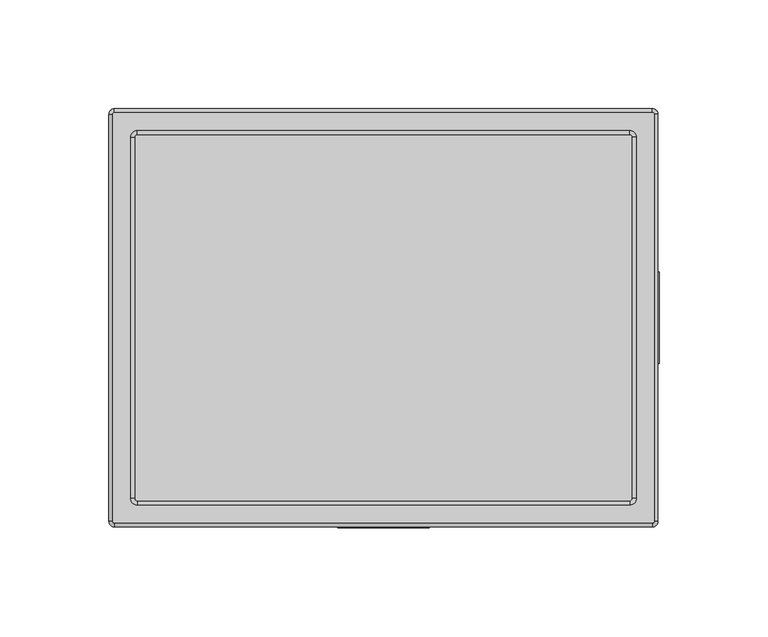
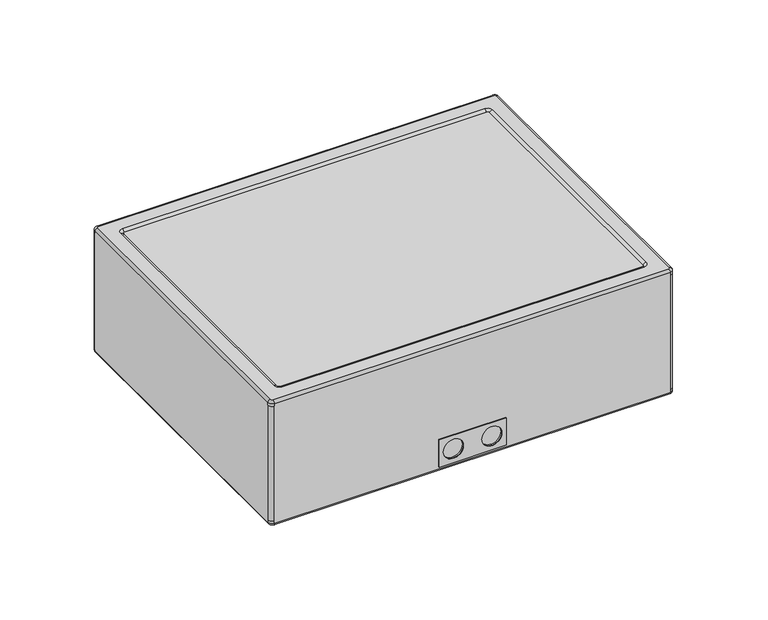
"""IFC4 building model written with IfcOpenShell, lengths in millimetres: proxy geometry, WA 06-165T Metal-EN54 STR : WA 06-165/T Metal-EN54 STR."""

from ifc_helpers import new_model, si_unit, point, frame, frame_2d, origin, place, context, project, spatial, polyline, circle_curve, ellipse_curve, trimmed, segment, composite_curve, outline, extrude, faceted_brep, source, transform, mapped, element, save
from ifc_brep_helpers import plane_surface, cylinder_surface, revolved_surface, advanced_brep


def communication_devices_0cf20ce7(model_context):
    return source(origin(), model_context, "Body", "SolidModel", [
        faceted_brep([(-94.9046082, 64.9046107, 68.8696979), (-108.9999975, 79.0, 74.0), (-108.9999975, -79.0, 74.0), (-94.9046082, -64.9046107, 68.8696979), (-115.9046082, 85.9046107, 79.0), (-115.9046082, 85.9046107, 66.8696979), (-115.9046082, -85.9046107, 66.8696979), (-115.9046082, -85.9046107, 79.0), (-113.9999975, 84.0, 74.0), (-113.9999975, 84.0, 79.0), (-113.9999975, -84.0, 79.0), (-113.9999975, -84.0, 74.0), (109.0000025, -79.0, 74.0), (94.9046132, -64.9046107, 68.8696979), (115.9046132, -85.9046107, 66.8696979), (115.9046132, -85.9046107, 79.0), (114.0000025, -84.0, 79.0), (114.0000025, -84.0, 74.0), (109.0000025, 79.0, 74.0), (94.9046132, 64.9046107, 68.8696979), (115.9046132, 85.9046107, 66.8696979), (115.9046132, 85.9046107, 79.0), (114.0000025, 84.0, 79.0), (114.0000025, 84.0, 74.0)], [[[0, 1, 2, 3]], [[4, 5, 6, 7]], [[8, 9, 10, 11]], [[3, 2, 12, 13]], [[7, 6, 14, 15]], [[11, 10, 16, 17]], [[13, 12, 18, 19]], [[15, 14, 20, 21]], [[17, 16, 22, 23]], [[8, 11, 17, 23], [2, 1, 18, 12]], [[1, 0, 19, 18]], [[0, 3, 13, 19]], [[6, 5, 20, 14]], [[5, 4, 21, 20]], [[4, 7, 15, 21], [10, 9, 22, 16]], [[9, 8, 23, 22]]]),
        extrude(outline(composite_curve([segment(polyline([(-112.9999975, 84.0), (113.0000025, 84.0)]), True, "CONTINUOUS"), segment(trimmed(circle_curve(frame_2d((113.0000025, 83.0)), 1.0), [point((113.0000025, 84.0))], [point((114.0000025, 83.0))], False, "CARTESIAN"), True, "CONTINUOUS"), segment(polyline([(114.0000025, 83.0), (114.0000025, -82.9728648)]), True, "CONTINUOUS"), segment(trimmed(circle_curve(frame_2d((112.9728673, -82.9728648)), 1.0271352), [point((114.0000025, -82.9728648))], [point((112.9728673, -84.0))], False, "CARTESIAN"), True, "CONTINUOUS"), segment(polyline([(112.9728673, -84.0), (-112.9999975, -84.0)]), True, "CONTINUOUS"), segment(trimmed(circle_curve(frame_2d((-112.9999975, -83.0)), 1.0), [point((-112.9999975, -84.0))], [point((-113.9999975, -83.0))], False, "CARTESIAN"), True, "CONTINUOUS"), segment(polyline([(-113.9999975, -83.0), (-113.9999975, 83.0)]), True, "CONTINUOUS"), segment(trimmed(circle_curve(frame_2d((-112.9999975, 83.0)), 1.0), [point((-113.9999975, 83.0))], [point((-112.9999975, 84.0))], False, "CARTESIAN"), True, "CONTINUOUS")], self_intersect=False)), frame((0.0, 0.0, 79.0), z_axis=(0.0, 0.0, 1.0), x_axis=(1.0, 0.0, 0.0)), (0.0, 0.0, 1.0), 2.0),
        advanced_brep(
        [(125.0, 5.75, 12.0), (125.0, 18.25, 12.0), (125.0, -5.75, 12.0), (125.0, -18.25, 12.0), (126.5, 5.75, 12.0), (126.5, 18.25, 12.0), (126.5, -5.75, 12.0), (126.5, -18.25, 12.0), (126.5, 21.0, 3.0), (126.5, 21.0, 21.0), (126.5, -21.0, 21.0), (126.5, -21.0, 3.0), (126.0039881, 21.0, 3.0), (126.0039881, 21.0, 21.0), (126.0039881, -21.0, 21.0), (126.0039881, -21.0, 3.0), (-112.9999975, -84.0, 80.0), (-113.9999975, -83.0, 80.0), (-115.9999975, -83.0, 82.0), (-112.9999975, -86.0, 82.0), (112.9728673, -86.0, 82.0), (112.9728673, -84.0, 80.0), (116.0000025, -82.9728648, 82.0), (114.0000025, -82.9728648, 80.0), (116.0000025, 83.0, 82.0), (114.0000025, 83.0, 80.0), (113.0000025, 86.0, 82.0), (113.0000025, 84.0, 80.0), (-112.9999975, 86.0, 82.0), (-112.9999975, 84.0, 80.0), (-115.9999975, 83.0, 82.0), (-113.9999975, 83.0, 80.0), (-112.9999975, -84.0, 79.0), (-113.9999975, -83.0, 79.0), (112.9728673, -84.0, 79.0), (114.0000025, -82.9728648, 79.0), (114.0000025, 83.0, 79.0), (113.0000025, 84.0, 79.0), (-112.9999975, 84.0, 79.0), (-113.9999975, 83.0, 79.0), (123.5039881, -93.5039906, 79.0), (-123.4552169, -93.5039906, 79.0), (-123.5039881, 93.4552194, 79.0), (123.4552169, 93.5039906, 79.0), (-123.4552169, -96.0039906, 80.5), (-126.0039881, -93.4552194, 80.5), (-126.0039881, -93.4552194, 79.0), (-123.4552169, -96.0039906, 79.0), (-123.4552169, -94.5039906, 82.0), (-124.5039881, -93.4552194, 82.0), (-123.4552169, -96.0039906, 3.0), (-123.4552169, -96.0039906, 1.5), (123.4552169, -96.0039906, 1.5), (123.4552169, -96.0039906, 3.0), (123.4552169, -96.0039906, 79.0), (123.4552169, -96.0039906, 80.5), (21.0, -96.0039906, 3.0), (-21.0, -96.0039906, 3.0), (-21.0, -96.0039906, 21.0), (21.0, -96.0039906, 21.0), (123.4552169, -94.5039906, 82.0), (126.0039881, -93.4552194, 79.0), (126.0039881, -93.4552194, 80.5), (124.5039881, -93.4552194, 82.0), (126.0039881, -93.4552194, 3.0), (126.0039881, -93.4552194, 1.5), (126.0039881, 93.4552194, 1.5), (126.0039881, 93.4552194, 3.0), (126.0039881, 93.4552194, 79.0), (126.0039881, 93.4552194, 80.5), (124.5039881, 93.4552194, 82.0), (123.4552169, 96.0039906, 79.0), (123.4552169, 96.0039906, 80.5), (123.4552169, 94.5039906, 82.0), (123.4552169, 96.0039906, 3.0), (123.4552169, 96.0039906, 1.5), (-123.4552169, 96.0039906, 1.5), (-123.4552169, 96.0039906, 3.0), (-123.4552169, 96.0039906, 79.0), (-123.4552169, 96.0039906, 80.5), (-123.4552169, 94.5039906, 82.0), (-126.0039881, 93.4552194, 79.0), (-126.0039881, 93.4552194, 80.5), (-124.5039881, 93.4552194, 82.0), (-126.0039881, 93.4552194, 3.0), (-126.0039881, 93.4552194, 1.5), (-126.0039881, -93.4552194, 1.5), (-126.0039881, -93.4552194, 3.0), (-124.5039881, -93.4552194, 0.0), (-123.4552169, -94.5039906, 0.0), (123.5039881, -93.5039906, 3.0), (-123.4552169, -93.5039906, 3.0), (123.4552169, -94.5039906, 0.0), (124.5039881, -93.4552194, 0.0), (123.5039881, 93.5039906, 3.0), (124.5039881, 93.4552194, 0.0), (123.4552169, 94.5039906, 0.0), (-123.5039881, 93.5039906, 3.0), (-123.4552169, 94.5039906, 0.0), (-124.5039881, 93.4552194, 0.0), (5.75, -95.0, 12.0), (18.25, -95.0, 12.0), (-5.75, -95.0, 12.0), (-18.25, -95.0, 12.0), (5.75, -96.0039906, 12.0), (18.25, -96.0039906, 12.0), (-5.75, -96.0039906, 12.0), (-18.25, -96.0039906, 12.0), (-21.0, -96.5, 3.0), (21.0, -96.5, 3.0), (21.0, -96.5, 21.0), (-21.0, -96.5, 21.0), (18.25, -96.5, 12.0), (5.75, -96.5, 12.0), (-18.25, -96.5, 12.0), (-5.75, -96.5, 12.0)],
        [
            (0, 1, circle_curve(frame((125.0, 12.0, 12.0), z_axis=(1.0, 0.0, 0.0), x_axis=(0.0, 1.0, 0.0)), 6.25)),
            (1, 0, circle_curve(frame((125.0, 12.0, 12.0), z_axis=(1.0, 0.0, 0.0), x_axis=(0.0, 1.0, 0.0)), 6.25)),
            (2, 3, circle_curve(frame((125.0, -12.0, 12.0), z_axis=(1.0, 0.0, 0.0), x_axis=(0.0, -1.0, 0.0)), 6.25)),
            (3, 2, circle_curve(frame((125.0, -12.0, 12.0), z_axis=(1.0, 0.0, 0.0), x_axis=(0.0, -1.0, 0.0)), 6.25)),
            (0, 4),
            (4, 5, circle_curve(frame((126.5, 12.0, 12.0), z_axis=(1.0, 0.0, 0.0), x_axis=(0.0, 1.0, 0.0)), 6.25)),
            (5, 1),
            (5, 4, circle_curve(frame((126.5, 12.0, 12.0), z_axis=(1.0, 0.0, 0.0), x_axis=(0.0, 1.0, 0.0)), 6.25)),
            (2, 6),
            (6, 7, circle_curve(frame((126.5, -12.0, 12.0), z_axis=(1.0, 0.0, 0.0), x_axis=(0.0, -1.0, 0.0)), 6.25)),
            (7, 3),
            (7, 6, circle_curve(frame((126.5, -12.0, 12.0), z_axis=(1.0, 0.0, 0.0), x_axis=(0.0, -1.0, 0.0)), 6.25)),
            (8, 9),
            (9, 10),
            (10, 11),
            (11, 8),
            (8, 12),
            (12, 13),
            (13, 9),
            (13, 14),
            (14, 10),
            (14, 15),
            (15, 11),
            (15, 12),
            (16, 17, circle_curve(frame((-112.9999975, -83.0, 80.0), z_axis=(0.0, 0.0, -1.0), x_axis=(-1.0, 0.0, 0.0)), 1.0)),
            (17, 18, circle_curve(frame((-115.9999975, -83.0, 80.0), z_axis=(0.0, -1.0, 0.0), x_axis=(1.0, 0.0, 0.0)), 2.0)),
            (18, 19, circle_curve(frame((-112.9999975, -83.0, 82.0), z_axis=(0.0, 0.0, 1.0), x_axis=(-1.0, 0.0, 0.0)), 3.0)),
            (19, 16, circle_curve(frame((-112.9999975, -86.0, 80.0), z_axis=(-1.0, 0.0, 0.0), x_axis=(0.0, 1.0, 0.0)), 2.0)),
            (19, 20),
            (20, 21, circle_curve(frame((112.9728673, -86.0, 80.0), z_axis=(-1.0, 0.0, 0.0), x_axis=(0.0, 1.0, 0.0)), 2.0)),
            (21, 16),
            (20, 22, circle_curve(frame((112.9728673, -82.9728648, 82.0), z_axis=(0.0, 0.0, 1.0), x_axis=(0.0, -1.0, 0.0)), 3.0271352)),
            (22, 23, circle_curve(frame((116.0000025, -82.9728648, 80.0), z_axis=(0.0, -1.0, 0.0), x_axis=(-1.0, 0.0, 0.0)), 2.0)),
            (23, 21, circle_curve(frame((112.9728673, -82.9728648, 80.0), z_axis=(0.0, 0.0, -1.0), x_axis=(0.0, -1.0, 0.0)), 1.0271352)),
            (22, 24),
            (24, 25, circle_curve(frame((116.0000025, 83.0, 80.0), z_axis=(0.0, -1.0, 0.0), x_axis=(-1.0, 0.0, 0.0)), 2.0)),
            (25, 23),
            (24, 26, circle_curve(frame((113.0000025, 83.0, 82.0), z_axis=(0.0, 0.0, 1.0), x_axis=(1.0, 0.0, 0.0)), 3.0)),
            (26, 27, circle_curve(frame((113.0000025, 86.0, 80.0), z_axis=(1.0, 0.0, 0.0), x_axis=(0.0, -1.0, 0.0)), 2.0)),
            (27, 25, circle_curve(frame((113.0000025, 83.0, 80.0), z_axis=(0.0, 0.0, -1.0), x_axis=(1.0, 0.0, 0.0)), 1.0)),
            (26, 28),
            (28, 29, circle_curve(frame((-112.9999975, 86.0, 80.0), z_axis=(1.0, 0.0, 0.0), x_axis=(0.0, -1.0, 0.0)), 2.0)),
            (29, 27),
            (28, 30, circle_curve(frame((-112.9999975, 83.0, 82.0), z_axis=(0.0, 0.0, 1.0), x_axis=(0.0, 1.0, 0.0)), 3.0)),
            (30, 31, circle_curve(frame((-115.9999975, 83.0, 80.0), z_axis=(0.0, 1.0, 0.0), x_axis=(1.0, 0.0, 0.0)), 2.0)),
            (31, 29, circle_curve(frame((-112.9999975, 83.0, 80.0), z_axis=(0.0, 0.0, -1.0), x_axis=(0.0, 1.0, 0.0)), 1.0)),
            (17, 31),
            (30, 18),
            (16, 32),
            (32, 33, circle_curve(frame((-112.9999975, -83.0, 79.0), z_axis=(0.0, 0.0, -1.0), x_axis=(-1.0, 0.0, 0.0)), 1.0)),
            (33, 17),
            (21, 34),
            (34, 32),
            (23, 35),
            (35, 34, circle_curve(frame((112.9728673, -82.9728648, 79.0), z_axis=(0.0, 0.0, -1.0), x_axis=(0.0, -1.0, 0.0)), 1.0271352)),
            (25, 36),
            (36, 35),
            (27, 37),
            (37, 36, circle_curve(frame((113.0000025, 83.0, 79.0), z_axis=(0.0, 0.0, -1.0), x_axis=(1.0, 0.0, 0.0)), 1.0)),
            (29, 38),
            (38, 37),
            (31, 39),
            (39, 38, circle_curve(frame((-112.9999975, 83.0, 79.0), z_axis=(0.0, 0.0, -1.0), x_axis=(0.0, 1.0, 0.0)), 1.0)),
            (33, 39),
            (40, 41),
            (41, 42),
            (42, 43),
            (43, 40),
            (44, 45, circle_curve(frame((-123.4552169, -93.4552194, 80.5), z_axis=(0.0, 0.0, -1.0), x_axis=(-1.0, 0.0, 0.0)), 2.5487712)),
            (45, 46),
            (46, 47, circle_curve(frame((-123.4552169, -93.4552194, 79.0), z_axis=(0.0, 0.0, 1.0), x_axis=(-1.0, 0.0, 0.0)), 2.5487712)),
            (47, 44),
            (44, 48, circle_curve(frame((-123.4552169, -94.5039906, 80.5), z_axis=(-1.0, 0.0, 0.0), x_axis=(0.0, 1.0, 0.0)), 1.5)),
            (48, 49, circle_curve(frame((-123.4552169, -93.4552194, 82.0), z_axis=(0.0, 0.0, -1.0), x_axis=(-1.0, 0.0, 0.0)), 1.0487712)),
            (49, 45, circle_curve(frame((-124.5039881, -93.4552194, 80.5), z_axis=(0.0, -1.0, 0.0), x_axis=(1.0, 0.0, 0.0)), 1.5)),
            (47, 50),
            (50, 51),
            (51, 52),
            (52, 53),
            (53, 54),
            (54, 55),
            (55, 44),
            (56, 57),
            (57, 58),
            (58, 59),
            (59, 56),
            (55, 60, circle_curve(frame((123.4552169, -94.5039906, 80.5), z_axis=(-1.0, 0.0, 0.0), x_axis=(0.0, 1.0, 0.0)), 1.5)),
            (60, 48),
            (54, 61, circle_curve(frame((123.4552169, -93.4552194, 79.0), z_axis=(0.0, 0.0, 1.0), x_axis=(0.0, -1.0, 0.0)), 2.5487712)),
            (61, 62),
            (62, 55, circle_curve(frame((123.4552169, -93.4552194, 80.5), z_axis=(0.0, 0.0, -1.0), x_axis=(0.0, -1.0, 0.0)), 2.5487712)),
            (62, 63, circle_curve(frame((124.5039881, -93.4552194, 80.5), z_axis=(0.0, -1.0, 0.0), x_axis=(-1.0, 0.0, 0.0)), 1.5)),
            (63, 60, circle_curve(frame((123.4552169, -93.4552194, 82.0), z_axis=(0.0, 0.0, -1.0), x_axis=(0.0, -1.0, 0.0)), 1.0487712)),
            (61, 64),
            (64, 65),
            (65, 66),
            (66, 67),
            (67, 68),
            (68, 69),
            (69, 62),
            (69, 70, circle_curve(frame((124.5039881, 93.4552194, 80.5), z_axis=(0.0, -1.0, 0.0), x_axis=(-1.0, 0.0, 0.0)), 1.5)),
            (70, 63),
            (68, 71, circle_curve(frame((123.4552169, 93.4552194, 79.0), z_axis=(0.0, 0.0, 1.0), x_axis=(1.0, 0.0, 0.0)), 2.5487712)),
            (71, 72),
            (72, 69, circle_curve(frame((123.4552169, 93.4552194, 80.5), z_axis=(0.0, 0.0, -1.0), x_axis=(1.0, 0.0, 0.0)), 2.5487712)),
            (72, 73, circle_curve(frame((123.4552169, 94.5039906, 80.5), z_axis=(1.0, 0.0, 0.0), x_axis=(0.0, -1.0, 0.0)), 1.5)),
            (73, 70, circle_curve(frame((123.4552169, 93.4552194, 82.0), z_axis=(0.0, 0.0, -1.0), x_axis=(1.0, 0.0, 0.0)), 1.0487712)),
            (71, 74),
            (74, 75),
            (75, 76),
            (76, 77),
            (77, 78),
            (78, 79),
            (79, 72),
            (79, 80, circle_curve(frame((-123.4552169, 94.5039906, 80.5), z_axis=(1.0, 0.0, 0.0), x_axis=(0.0, -1.0, 0.0)), 1.5)),
            (80, 73),
            (78, 81, circle_curve(frame((-123.4552169, 93.4552194, 79.0), z_axis=(0.0, 0.0, 1.0), x_axis=(0.0, 1.0, 0.0)), 2.5487712)),
            (81, 82),
            (82, 79, circle_curve(frame((-123.4552169, 93.4552194, 80.5), z_axis=(0.0, 0.0, -1.0), x_axis=(0.0, 1.0, 0.0)), 2.5487712)),
            (82, 83, circle_curve(frame((-124.5039881, 93.4552194, 80.5), z_axis=(0.0, 1.0, 0.0), x_axis=(1.0, 0.0, 0.0)), 1.5)),
            (83, 80, circle_curve(frame((-123.4552169, 93.4552194, 82.0), z_axis=(0.0, 0.0, -1.0), x_axis=(0.0, 1.0, 0.0)), 1.0487712)),
            (45, 82),
            (81, 84),
            (84, 85),
            (85, 86),
            (86, 87),
            (87, 46),
            (49, 83),
            (51, 86, circle_curve(frame((-123.4552169, -93.4552194, 1.5), z_axis=(0.0, 0.0, -1.0), x_axis=(-1.0, 0.0, 0.0)), 2.5487712)),
            (86, 88, circle_curve(frame((-124.5039881, -93.4552194, 1.5), z_axis=(0.0, -1.0, 0.0), x_axis=(1.0, 0.0, 0.0)), 1.5)),
            (88, 89, circle_curve(frame((-123.4552169, -93.4552194, 0.0), z_axis=(0.0, 0.0, 1.0), x_axis=(-1.0, 0.0, 0.0)), 1.0487712)),
            (89, 51, circle_curve(frame((-123.4552169, -94.5039906, 1.5), z_axis=(-1.0, 0.0, 0.0), x_axis=(0.0, 1.0, 0.0)), 1.5)),
            (50, 87, circle_curve(frame((-123.4552169, -93.4552194, 3.0), z_axis=(0.0, 0.0, -1.0), x_axis=(-1.0, 0.0, 0.0)), 2.5487712)),
            (40, 90),
            (90, 91),
            (91, 41),
            (89, 92),
            (92, 52, circle_curve(frame((123.4552169, -94.5039906, 1.5), z_axis=(-1.0, 0.0, 0.0), x_axis=(0.0, 1.0, 0.0)), 1.5)),
            (92, 93, circle_curve(frame((123.4552169, -93.4552194, 0.0), z_axis=(0.0, 0.0, 1.0), x_axis=(0.0, -1.0, 0.0)), 1.0487712)),
            (93, 65, circle_curve(frame((124.5039881, -93.4552194, 1.5), z_axis=(0.0, -1.0, 0.0), x_axis=(-1.0, 0.0, 0.0)), 1.5)),
            (65, 52, circle_curve(frame((123.4552169, -93.4552194, 1.5), z_axis=(0.0, 0.0, -1.0), x_axis=(0.0, -1.0, 0.0)), 2.5487712)),
            (64, 53, circle_curve(frame((123.4552169, -93.4552194, 3.0), z_axis=(0.0, 0.0, -1.0), x_axis=(0.0, -1.0, 0.0)), 2.5487712)),
            (43, 94),
            (94, 90),
            (93, 95),
            (95, 66, circle_curve(frame((124.5039881, 93.4552194, 1.5), z_axis=(0.0, -1.0, 0.0), x_axis=(-1.0, 0.0, 0.0)), 1.5)),
            (95, 96, circle_curve(frame((123.4552169, 93.4552194, 0.0), z_axis=(0.0, 0.0, 1.0), x_axis=(1.0, 0.0, 0.0)), 1.0487712)),
            (96, 75, circle_curve(frame((123.4552169, 94.5039906, 1.5), z_axis=(1.0, 0.0, 0.0), x_axis=(0.0, -1.0, 0.0)), 1.5)),
            (75, 66, circle_curve(frame((123.4552169, 93.4552194, 1.5), z_axis=(0.0, 0.0, -1.0), x_axis=(1.0, 0.0, 0.0)), 2.5487712)),
            (74, 67, circle_curve(frame((123.4552169, 93.4552194, 3.0), z_axis=(0.0, 0.0, -1.0), x_axis=(1.0, 0.0, 0.0)), 2.5487712)),
            (42, 97),
            (97, 94),
            (96, 98),
            (98, 76, circle_curve(frame((-123.4552169, 94.5039906, 1.5), z_axis=(1.0, 0.0, 0.0), x_axis=(0.0, -1.0, 0.0)), 1.5)),
            (98, 99, circle_curve(frame((-123.4552169, 93.4552194, 0.0), z_axis=(0.0, 0.0, 1.0), x_axis=(0.0, 1.0, 0.0)), 1.0487712)),
            (99, 85, circle_curve(frame((-124.5039881, 93.4552194, 1.5), z_axis=(0.0, 1.0, 0.0), x_axis=(1.0, 0.0, 0.0)), 1.5)),
            (85, 76, circle_curve(frame((-123.4552169, 93.4552194, 1.5), z_axis=(0.0, 0.0, -1.0), x_axis=(0.0, 1.0, 0.0)), 2.5487712)),
            (84, 77, circle_curve(frame((-123.4552169, 93.4552194, 3.0), z_axis=(0.0, 0.0, -1.0), x_axis=(0.0, 1.0, 0.0)), 2.5487712)),
            (91, 97),
            (88, 99),
            (100, 101, circle_curve(frame((12.0, -95.0, 12.0), z_axis=(0.0, -1.0, 0.0), x_axis=(1.0, 0.0, 0.0)), 6.25)),
            (101, 100, circle_curve(frame((12.0, -95.0, 12.0), z_axis=(0.0, -1.0, 0.0), x_axis=(1.0, 0.0, 0.0)), 6.25)),
            (102, 103, circle_curve(frame((-12.0, -95.0, 12.0), z_axis=(0.0, -1.0, 0.0), x_axis=(-1.0, 0.0, 0.0)), 6.25)),
            (103, 102, circle_curve(frame((-12.0, -95.0, 12.0), z_axis=(0.0, -1.0, 0.0), x_axis=(-1.0, 0.0, 0.0)), 6.25)),
            (100, 104),
            (104, 105, circle_curve(frame((12.0, -96.0039906, 12.0), z_axis=(0.0, -1.0, 0.0), x_axis=(1.0, 0.0, 0.0)), 6.25)),
            (105, 101),
            (105, 104, circle_curve(frame((12.0, -96.0039906, 12.0), z_axis=(0.0, -1.0, 0.0), x_axis=(1.0, 0.0, 0.0)), 6.25)),
            (102, 106),
            (106, 107, circle_curve(frame((-12.0, -96.0039906, 12.0), z_axis=(0.0, -1.0, 0.0), x_axis=(-1.0, 0.0, 0.0)), 6.25)),
            (107, 103),
            (107, 106, circle_curve(frame((-12.0, -96.0039906, 12.0), z_axis=(0.0, -1.0, 0.0), x_axis=(-1.0, 0.0, 0.0)), 6.25)),
            (108, 109),
            (109, 110),
            (110, 111),
            (111, 108),
            (112, 113, circle_curve(frame((12.0, -96.5, 12.0), z_axis=(0.0, 1.0, 0.0), x_axis=(1.0, 0.0, 0.0)), 6.25)),
            (113, 112, circle_curve(frame((12.0, -96.5, 12.0), z_axis=(0.0, 1.0, 0.0), x_axis=(1.0, 0.0, 0.0)), 6.25)),
            (114, 115, circle_curve(frame((-12.0, -96.5, 12.0), z_axis=(0.0, 1.0, 0.0), x_axis=(-1.0, 0.0, 0.0)), 6.25)),
            (115, 114, circle_curve(frame((-12.0, -96.5, 12.0), z_axis=(0.0, 1.0, 0.0), x_axis=(-1.0, 0.0, 0.0)), 6.25)),
            (108, 57),
            (56, 109),
            (59, 110),
            (58, 111),
            (112, 105),
            (104, 113),
            (114, 107),
            (106, 115),
        ],
        [
            plane_surface(frame((125.0, 18.25, 12.0), z_axis=(1.0, 0.0, 0.0), x_axis=(0.0, 0.0, -1.0))),
            revolved_surface(polyline([(126.5, 18.25, 12.0), (125.0, 18.25, 12.0)]), (125.0, 12.0, 12.0), (1.0, 0.0, 0.0)),
            revolved_surface(polyline([(126.5, -18.25, 12.0), (125.0, -18.25, 12.0)]), (0.0, -12.0, 12.0), (1.0, 0.0, 0.0)),
            plane_surface(frame((126.5, 21.0, 18.25), z_axis=(1.0, 0.0, 0.0), x_axis=(0.0, 0.0, 1.0))),
            plane_surface(frame((126.5, 21.0, 3.0), z_axis=(0.0, 1.0, 0.0), x_axis=(-1.0, 0.0, 0.0))),
            plane_surface(frame((126.5, 21.0, 21.0), z_axis=(0.0, 0.0, 1.0), x_axis=(-1.0, 0.0, 0.0))),
            plane_surface(frame((126.5, -21.0, 21.0), z_axis=(0.0, -1.0, 0.0), x_axis=(-1.0, 0.0, 0.0))),
            plane_surface(frame((126.5, -21.0, 3.0), z_axis=(0.0, 0.0, -1.0), x_axis=(-1.0, 0.0, 0.0))),
            revolved_surface(trimmed(ellipse_curve(frame((-115.9999975, -83.0, 80.0), z_axis=(0.0, 1.0, 0.0), x_axis=(1.0, 0.0, 0.0)), 2.0, 2.0), [point((-115.9999975, -83.0, 82.0))], [point((-113.9999975, -83.0, 80.0))], True, "CARTESIAN"), (-112.9999975, -83.0, 0.0), (0.0, 0.0, 1.0)),
            cylinder_surface(frame((-112.9999975, -86.0, 80.0), z_axis=(-1.0, 0.0, 0.0), x_axis=(0.0, 1.0, 0.0)), 2.0),
            revolved_surface(trimmed(ellipse_curve(frame((112.9728673, -86.0, 80.0), z_axis=(-1.0, 0.0, 0.0), x_axis=(0.0, 1.0, 0.0)), 2.0, 2.0), [point((112.9728673, -86.0, 82.0))], [point((112.9728673, -84.0, 80.0))], True, "CARTESIAN"), (112.9728673, -82.9728648, 0.0), (0.0, 0.0, 1.0)),
            cylinder_surface(frame((116.0000025, -82.9728648, 80.0), z_axis=(0.0, -1.0, 0.0), x_axis=(-1.0, 0.0, 0.0)), 2.0),
            revolved_surface(trimmed(ellipse_curve(frame((116.0000025, 83.0, 80.0), z_axis=(0.0, -1.0, 0.0), x_axis=(-1.0, 0.0, 0.0)), 2.0, 2.0), [point((116.0000025, 83.0, 82.0))], [point((114.0000025, 83.0, 80.0))], True, "CARTESIAN"), (113.0000025, 83.0, 0.0), (0.0, 0.0, 1.0)),
            cylinder_surface(frame((113.0000025, 86.0, 80.0), z_axis=(1.0, 0.0, 0.0), x_axis=(0.0, -1.0, 0.0)), 2.0),
            revolved_surface(trimmed(ellipse_curve(frame((-112.9999975, 86.0, 80.0), z_axis=(1.0, 0.0, 0.0), x_axis=(0.0, -1.0, 0.0)), 2.0, 2.0), [point((-112.9999975, 86.0, 82.0))], [point((-112.9999975, 84.0, 80.0))], True, "CARTESIAN"), (-112.9999975, 83.0, 0.0), (0.0, 0.0, 1.0)),
            cylinder_surface(frame((-115.9999975, 83.0, 80.0), z_axis=(0.0, 1.0, 0.0), x_axis=(1.0, 0.0, 0.0)), 2.0),
            revolved_surface(polyline([(-113.9999975, -83.0, 80.0), (-113.9999975, -83.0, 79.0)]), (-112.9999975, -83.0, 0.0), (0.0, 0.0, 1.0)),
            plane_surface(frame((-112.9999975, -84.0, 80.0), z_axis=(0.0, 1.0, 0.0), x_axis=(1.0, 0.0, 0.0))),
            revolved_surface(polyline([(112.9728673, -84.0, 80.0), (112.9728673, -84.0, 79.0)]), (112.9728673, -82.9728648, 0.0), (0.0, 0.0, 1.0)),
            plane_surface(frame((114.0000025, -82.9728648, 80.0), z_axis=(-1.0, 0.0, 0.0), x_axis=(0.0, 1.0, 0.0))),
            revolved_surface(polyline([(114.0000025, 83.0, 80.0), (114.0000025, 83.0, 79.0)]), (113.0000025, 83.0, 0.0), (0.0, 0.0, 1.0)),
            plane_surface(frame((113.0000025, 84.0, 80.0), z_axis=(0.0, -1.0, 0.0), x_axis=(-1.0, 0.0, 0.0))),
            revolved_surface(polyline([(-112.9999975, 84.0, 80.0), (-112.9999975, 84.0, 79.0)]), (-112.9999975, 83.0, 0.0), (0.0, 0.0, 1.0)),
            plane_surface(frame((-113.9999975, 83.0, 80.0), z_axis=(1.0, 0.0, 0.0), x_axis=(0.0, -1.0, 0.0))),
            plane_surface(frame((-113.9999975, 83.0, 79.0), z_axis=(0.0, 0.0, -1.0), x_axis=(0.0, -1.0, 0.0))),
            cylinder_surface(frame((-123.4552169, -93.4552194, 0.0), z_axis=(0.0, 0.0, 1.0), x_axis=(-1.0, 0.0, 0.0)), 2.5487712),
            revolved_surface(trimmed(ellipse_curve(frame((-124.5039881, -93.4552194, 80.5), z_axis=(0.0, 1.0, 0.0), x_axis=(1.0, 0.0, 0.0)), 1.5, 1.5), [point((-126.0039881, -93.4552194, 80.5))], [point((-124.5039881, -93.4552194, 82.0))], True, "CARTESIAN"), (-123.4552169, -93.4552194, 0.0), (0.0, 0.0, 1.0)),
            plane_surface(frame((-123.4552169, -96.0039906, 79.0), z_axis=(0.0, -1.0, 0.0), x_axis=(1.0, 0.0, 0.0))),
            cylinder_surface(frame((-123.4552169, -94.5039906, 80.5), z_axis=(-1.0, 0.0, 0.0), x_axis=(0.0, 1.0, 0.0)), 1.5),
            cylinder_surface(frame((123.4552169, -93.4552194, 0.0), z_axis=(0.0, 0.0, 1.0), x_axis=(0.0, -1.0, 0.0)), 2.5487712),
            revolved_surface(trimmed(ellipse_curve(frame((123.4552169, -94.5039906, 80.5), z_axis=(-1.0, 0.0, 0.0), x_axis=(0.0, 1.0, 0.0)), 1.5, 1.5), [point((123.4552169, -96.0039906, 80.5))], [point((123.4552169, -94.5039906, 82.0))], True, "CARTESIAN"), (123.4552169, -93.4552194, 0.0), (0.0, 0.0, 1.0)),
            plane_surface(frame((126.0039881, -93.4552194, 79.0), z_axis=(1.0, 0.0, 0.0), x_axis=(0.0, 1.0, 0.0))),
            cylinder_surface(frame((124.5039881, -93.4552194, 80.5), z_axis=(0.0, -1.0, 0.0), x_axis=(-1.0, 0.0, 0.0)), 1.5),
            cylinder_surface(frame((123.4552169, 93.4552194, 0.0), z_axis=(0.0, 0.0, 1.0), x_axis=(1.0, 0.0, 0.0)), 2.5487712),
            revolved_surface(trimmed(ellipse_curve(frame((124.5039881, 93.4552194, 80.5), z_axis=(0.0, -1.0, 0.0), x_axis=(-1.0, 0.0, 0.0)), 1.5, 1.5), [point((126.0039881, 93.4552194, 80.5))], [point((124.5039881, 93.4552194, 82.0))], True, "CARTESIAN"), (123.4552169, 93.4552194, 0.0), (0.0, 0.0, 1.0)),
            plane_surface(frame((123.4552169, 96.0039906, 79.0), z_axis=(0.0, 1.0, 0.0), x_axis=(-1.0, 0.0, 0.0))),
            cylinder_surface(frame((123.4552169, 94.5039906, 80.5), z_axis=(1.0, 0.0, 0.0), x_axis=(0.0, -1.0, 0.0)), 1.5),
            cylinder_surface(frame((-123.4552169, 93.4552194, 0.0), z_axis=(0.0, 0.0, 1.0), x_axis=(0.0, 1.0, 0.0)), 2.5487712),
            revolved_surface(trimmed(ellipse_curve(frame((-123.4552169, 94.5039906, 80.5), z_axis=(1.0, 0.0, 0.0), x_axis=(0.0, -1.0, 0.0)), 1.5, 1.5), [point((-123.4552169, 96.0039906, 80.5))], [point((-123.4552169, 94.5039906, 82.0))], True, "CARTESIAN"), (-123.4552169, 93.4552194, 0.0), (0.0, 0.0, 1.0)),
            plane_surface(frame((-126.0039881, 93.4552194, 79.0), z_axis=(-1.0, 0.0, 0.0), x_axis=(0.0, -1.0, 0.0))),
            cylinder_surface(frame((-124.5039881, 93.4552194, 80.5), z_axis=(0.0, 1.0, 0.0), x_axis=(1.0, 0.0, 0.0)), 1.5),
            plane_surface(frame((-124.5039881, 93.4552194, 82.0), z_axis=(0.0, 0.0, 1.0), x_axis=(0.0, -1.0, 0.0))),
            revolved_surface(trimmed(ellipse_curve(frame((-124.5039881, -93.4552194, 1.5), z_axis=(0.0, 1.0, 0.0), x_axis=(1.0, 0.0, 0.0)), 1.5, 1.5), [point((-124.5039881, -93.4552194, 0.0))], [point((-126.0039881, -93.4552194, 1.5))], True, "CARTESIAN"), (-123.4552169, -93.4552194, 0.0), (0.0, 0.0, 1.0)),
            plane_surface(frame((-123.4552169, -93.5039906, 3.0), z_axis=(0.0, 1.0, 0.0), x_axis=(1.0, 0.0, 0.0))),
            cylinder_surface(frame((-123.4552169, -94.5039906, 1.5), z_axis=(-1.0, 0.0, 0.0), x_axis=(0.0, 1.0, 0.0)), 1.5),
            revolved_surface(trimmed(ellipse_curve(frame((123.4552169, -94.5039906, 1.5), z_axis=(-1.0, 0.0, 0.0), x_axis=(0.0, 1.0, 0.0)), 1.5, 1.5), [point((123.4552169, -94.5039906, 0.0))], [point((123.4552169, -96.0039906, 1.5))], True, "CARTESIAN"), (123.4552169, -93.4552194, 0.0), (0.0, 0.0, 1.0)),
            plane_surface(frame((123.5039881, -93.4552194, 3.0), z_axis=(-1.0, 0.0, 0.0), x_axis=(0.0, 1.0, 0.0))),
            cylinder_surface(frame((124.5039881, -93.4552194, 1.5), z_axis=(0.0, -1.0, 0.0), x_axis=(-1.0, 0.0, 0.0)), 1.5),
            revolved_surface(trimmed(ellipse_curve(frame((124.5039881, 93.4552194, 1.5), z_axis=(0.0, -1.0, 0.0), x_axis=(-1.0, 0.0, 0.0)), 1.5, 1.5), [point((124.5039881, 93.4552194, 0.0))], [point((126.0039881, 93.4552194, 1.5))], True, "CARTESIAN"), (123.4552169, 93.4552194, 0.0), (0.0, 0.0, 1.0)),
            plane_surface(frame((123.4552169, 93.5039906, 3.0), z_axis=(0.0, -1.0, 0.0), x_axis=(-1.0, 0.0, 0.0))),
            cylinder_surface(frame((123.4552169, 94.5039906, 1.5), z_axis=(1.0, 0.0, 0.0), x_axis=(0.0, -1.0, 0.0)), 1.5),
            revolved_surface(trimmed(ellipse_curve(frame((-123.4552169, 94.5039906, 1.5), z_axis=(1.0, 0.0, 0.0), x_axis=(0.0, -1.0, 0.0)), 1.5, 1.5), [point((-123.4552169, 94.5039906, 0.0))], [point((-123.4552169, 96.0039906, 1.5))], True, "CARTESIAN"), (-123.4552169, 93.4552194, 0.0), (0.0, 0.0, 1.0)),
            plane_surface(frame((-123.5039881, 93.4552194, 3.0), z_axis=(1.0, 0.0, 0.0), x_axis=(0.0, -1.0, 0.0))),
            plane_surface(frame((-123.5039881, 93.4552194, 0.0), z_axis=(0.0, 0.0, -1.0), x_axis=(0.0, -1.0, 0.0))),
            cylinder_surface(frame((-124.5039881, 93.4552194, 1.5), z_axis=(0.0, 1.0, 0.0), x_axis=(1.0, 0.0, 0.0)), 1.5),
            plane_surface(frame((-124.0039881, -93.8, 3.0), z_axis=(0.0, 0.0, 1.0), x_axis=(0.0, -1.0, 0.0))),
            plane_surface(frame((18.25, -95.0, 12.0), z_axis=(0.0, -1.0, 0.0), x_axis=(0.0, 0.0, -1.0))),
            revolved_surface(polyline([(18.25, -96.0039906, 12.0), (18.25, -95.0, 12.0)]), (12.0, -95.0, 12.0), (0.0, -1.0, 0.0)),
            revolved_surface(polyline([(-18.25, -96.0039906, 12.0), (-18.25, -95.0, 12.0)]), (-12.0, 0.0, 12.0), (0.0, -1.0, 0.0)),
            plane_surface(frame((23.1205005, -96.5, 3.0), z_axis=(0.0, -1.0, 0.0), x_axis=(1.0, 0.0, 0.0))),
            plane_surface(frame((-21.0, -96.5, 3.0), z_axis=(0.0, 0.0, -1.0), x_axis=(0.0, 1.0, 0.0))),
            plane_surface(frame((21.0, -96.5, 3.0), z_axis=(1.0, 0.0, 0.0), x_axis=(0.0, 1.0, 0.0))),
            plane_surface(frame((21.0, -96.5, 21.0), z_axis=(0.0, 0.0, 1.0), x_axis=(0.0, 1.0, 0.0))),
            plane_surface(frame((-21.0, -96.5, 21.0), z_axis=(-1.0, 0.0, 0.0), x_axis=(0.0, 1.0, 0.0))),
            revolved_surface(polyline([(18.25, -96.5, 12.0), (18.25, -96.0039906, 12.0)]), (12.0, -95.0, 12.0), (0.0, -1.0, 0.0)),
            revolved_surface(polyline([(-18.25, -96.5, 12.0), (-18.25, -96.0039906, 12.0)]), (-12.0, 0.0, 12.0), (0.0, -1.0, 0.0)),
        ],
        [
            (0, [[1, 2]]),
            (0, [[3, 4]]),
            (1, [[-1, 5, 6, 7]]),
            (1, [[-2, -7, 8, -5]]),
            (2, [[-3, 9, 10, 11]]),
            (2, [[-4, -11, 12, -9]]),
            (3, [[13, 14, 15, 16], [-6, -8], [-10, -12]]),
            (4, [[-13, 17, 18, 19]]),
            (5, [[-14, -19, 20, 21]]),
            (6, [[-15, -21, 22, 23]]),
            (7, [[-16, -23, 24, -17]]),
            (8, [[25, 26, 27, 28]]),
            (9, [[-28, 29, 30, 31]]),
            (10, [[-30, 32, 33, 34]]),
            (11, [[-33, 35, 36, 37]]),
            (12, [[-36, 38, 39, 40]]),
            (13, [[-39, 41, 42, 43]]),
            (14, [[-42, 44, 45, 46]]),
            (15, [[-26, 47, -45, 48]]),
            (16, [[-25, 49, 50, 51]]),
            (17, [[-31, 52, 53, -49]]),
            (18, [[-34, 54, 55, -52]]),
            (19, [[-37, 56, 57, -54]]),
            (20, [[-40, 58, 59, -56]]),
            (21, [[-43, 60, 61, -58]]),
            (22, [[-46, 62, 63, -60]]),
            (23, [[-47, -51, 64, -62]]),
            (24, [[65, 66, 67, 68], [-50, -53, -55, -57, -59, -61, -63, -64]]),
            (25, [[69, 70, 71, 72]]),
            (26, [[-69, 73, 74, 75]]),
            (27, [[-72, 76, 77, 78, 79, 80, 81, 82], [83, 84, 85, 86]]),
            (28, [[-73, -82, 87, 88]]),
            (29, [[-81, 89, 90, 91]]),
            (30, [[-87, -91, 92, 93]]),
            (31, [[-90, 94, 95, 96, 97, 98, 99, 100], [-18, -24, -22, -20]]),
            (32, [[-92, -100, 101, 102]]),
            (33, [[-99, 103, 104, 105]]),
            (34, [[-101, -105, 106, 107]]),
            (35, [[-104, 108, 109, 110, 111, 112, 113, 114]]),
            (36, [[-106, -114, 115, 116]]),
            (37, [[-113, 117, 118, 119]]),
            (38, [[-115, -119, 120, 121]]),
            (39, [[-70, 122, -118, 123, 124, 125, 126, 127]]),
            (40, [[-75, 128, -120, -122]]),
            (41, [[-74, -88, -93, -102, -107, -116, -121, -128], [-27, -48, -44, -41, -38, -35, -32, -29]]),
            (42, [[129, 130, 131, 132]]),
            (25, [[-77, 133, -126, -129]]),
            (43, [[-65, 134, 135, 136]]),
            (44, [[-78, -132, 137, 138]]),
            (45, [[-138, 139, 140, 141]]),
            (29, [[-79, -141, -95, 142]]),
            (46, [[-68, 143, 144, -134]]),
            (47, [[-96, -140, 145, 146]]),
            (48, [[-146, 147, 148, 149]]),
            (33, [[-97, -149, -109, 150]]),
            (49, [[-67, 151, 152, -143]]),
            (50, [[-110, -148, 153, 154]]),
            (51, [[-154, 155, 156, 157]]),
            (37, [[-111, -157, -124, 158]]),
            (52, [[-66, -136, 159, -151]]),
            (53, [[-131, 160, -155, -153, -147, -145, -139, -137]]),
            (54, [[-125, -156, -160, -130]]),
            (25, [[-71, -127, -133, -76]]),
            (29, [[-80, -142, -94, -89]]),
            (33, [[-98, -150, -108, -103]]),
            (37, [[-112, -158, -123, -117]]),
            (55, [[-135, -144, -152, -159]]),
            (56, [[161, 162]]),
            (56, [[163, 164]]),
            (57, [[-161, 165, 166, 167]]),
            (57, [[-162, -167, 168, -165]]),
            (58, [[-163, 169, 170, 171]]),
            (58, [[-164, -171, 172, -169]]),
            (59, [[173, 174, 175, 176], [177, 178], [179, 180]]),
            (60, [[-173, 181, -83, 182]]),
            (61, [[-174, -182, -86, 183]]),
            (62, [[-175, -183, -85, 184]]),
            (63, [[-176, -184, -84, -181]]),
            (64, [[-177, 185, -166, 186]]),
            (64, [[-178, -186, -168, -185]]),
            (65, [[-179, 187, -170, 188]]),
            (65, [[-180, -188, -172, -187]]),
        ],
    ),
    ])


if __name__ == "__main__":
    model = new_model("IFC4")
    model_context = context("Model", 3, world=origin())
    ifc_project = project(units=[si_unit("LENGTHUNIT", "METRE", prefix="MILLI")], contexts=[model_context])
    site = spatial("IfcSite", under=ifc_project)
    building = spatial("IfcBuilding", under=site)
    placement = place(None, origin())
    communication_devices_shape = communication_devices_0cf20ce7(model_context)
    element("IfcBuildingElementProxy", 1, Name="WA 06-165T Metal-EN54 STR : WA 06-165/T Metal-EN54 STR", ObjectType="WA 06-165T Metal-EN54 STR : WA 06-165/T Metal-EN54 STR", at=placement, inside=building, context=model_context, shape_type="MappedRepresentation", body=[
        mapped(communication_devices_shape, transform((0.0, 0.0, 0.0), x_axis=(1.0, 0.0, 0.0), y_axis=(0.0, 1.0, 0.0), z_axis=(0.0, 0.0, 1.0))),
    ])
    save(model, "model.ifc")
